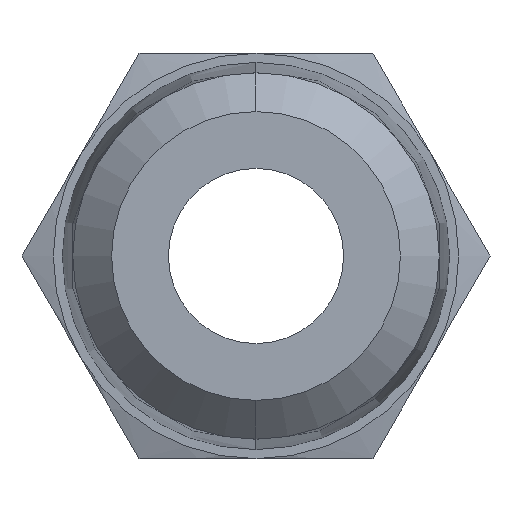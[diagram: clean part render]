
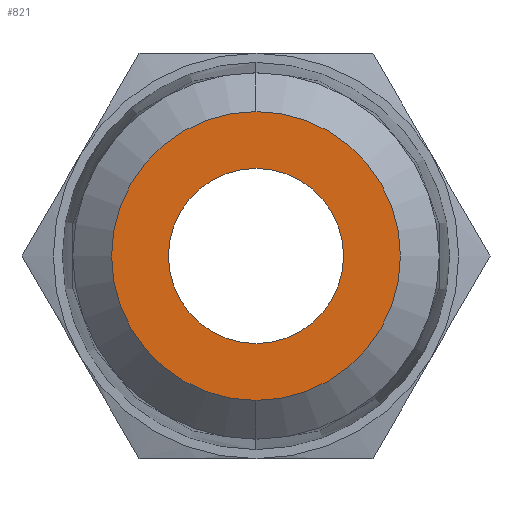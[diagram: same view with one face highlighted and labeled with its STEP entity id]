
A CAD part, left-side view. The second image highlights one B-rep face of the part: STEP entity #821.
In plain terms, the highlighted planar face has unit normal (-1, 0, 0).
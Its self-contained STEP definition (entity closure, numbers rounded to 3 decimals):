
#4 = DIRECTION ( 'NONE',  ( 0., 0., 1. ) ) ;
#5 = DIRECTION ( 'NONE',  ( -1., 0., 0. ) ) ;
#6 = CARTESIAN_POINT ( 'NONE',  ( -10., 0., 0. ) ) ;
#7 = AXIS2_PLACEMENT_3D ( 'NONE', #6, #5, #4 ) ;
#12 = CIRCLE ( 'NONE', #7, 3.959 ) ;
#257 = CARTESIAN_POINT ( 'NONE',  ( -10., 0., -3.959 ) ) ;
#258 = CARTESIAN_POINT ( 'NONE',  ( -10., 0., 3.959 ) ) ;
#259 = DIRECTION ( 'NONE',  ( 0., 0., 1. ) ) ;
#260 = DIRECTION ( 'NONE',  ( -1., 0., 0. ) ) ;
#261 = CARTESIAN_POINT ( 'NONE',  ( -10., 0., 0. ) ) ;
#262 = AXIS2_PLACEMENT_3D ( 'NONE', #261, #260, #259 ) ;
#269 = CIRCLE ( 'NONE', #262, 3.959 ) ;
#544 = CARTESIAN_POINT ( 'NONE',  ( -10., 0., 2.4 ) ) ;
#545 = CARTESIAN_POINT ( 'NONE',  ( -10., 0., -2.4 ) ) ;
#763 = DIRECTION ( 'NONE',  ( 0., 0., 1. ) ) ;
#764 = DIRECTION ( 'NONE',  ( -1., 0., 0. ) ) ;
#765 = CARTESIAN_POINT ( 'NONE',  ( -10., 0., 0. ) ) ;
#766 = AXIS2_PLACEMENT_3D ( 'NONE', #765, #764, #763 ) ;
#767 = CIRCLE ( 'NONE', #766, 2.4 ) ;
#821 = ADVANCED_FACE ( 'NONE', ( #986, #981 ), #980, .T. ) ;
#856 = ORIENTED_EDGE ( 'NONE', *, *, #857, .F. ) ;
#857 = EDGE_CURVE ( 'NONE', #1201, #1199, #969, .T. ) ;
#858 = ORIENTED_EDGE ( 'NONE', *, *, #1313, .F. ) ;
#925 = EDGE_LOOP ( 'NONE', ( #926, #928 ) ) ;
#926 = ORIENTED_EDGE ( 'NONE', *, *, #927, .T. ) ;
#927 = EDGE_CURVE ( 'NONE', #1185, #1184, #12, .T. ) ;
#928 = ORIENTED_EDGE ( 'NONE', *, *, #1183, .T. ) ;
#929 = EDGE_LOOP ( 'NONE', ( #856, #858 ) ) ;
#965 = DIRECTION ( 'NONE',  ( 0., 0., 1. ) ) ;
#966 = DIRECTION ( 'NONE',  ( -1., 0., 0. ) ) ;
#967 = CARTESIAN_POINT ( 'NONE',  ( -10., 0., 0. ) ) ;
#968 = AXIS2_PLACEMENT_3D ( 'NONE', #967, #966, #965 ) ;
#969 = CIRCLE ( 'NONE', #968, 2.4 ) ;
#975 = DIRECTION ( 'NONE',  ( 0., 0., 1. ) ) ;
#976 = DIRECTION ( 'NONE',  ( -1., 0., 0. ) ) ;
#977 = AXIS2_PLACEMENT_3D ( 'NONE', #979, #976, #975 ) ;
#979 = CARTESIAN_POINT ( 'NONE',  ( -10., 0., 0. ) ) ;
#980 = PLANE ( 'NONE',  #977 ) ;
#981 = FACE_BOUND ( 'NONE', #929, .T. ) ;
#986 = FACE_OUTER_BOUND ( 'NONE', #925, .T. ) ;
#1183 = EDGE_CURVE ( 'NONE', #1184, #1185, #269, .T. ) ;
#1184 = VERTEX_POINT ( 'NONE', #258 ) ;
#1185 = VERTEX_POINT ( 'NONE', #257 ) ;
#1199 = VERTEX_POINT ( 'NONE', #545 ) ;
#1201 = VERTEX_POINT ( 'NONE', #544 ) ;
#1313 = EDGE_CURVE ( 'NONE', #1199, #1201, #767, .T. ) ;
